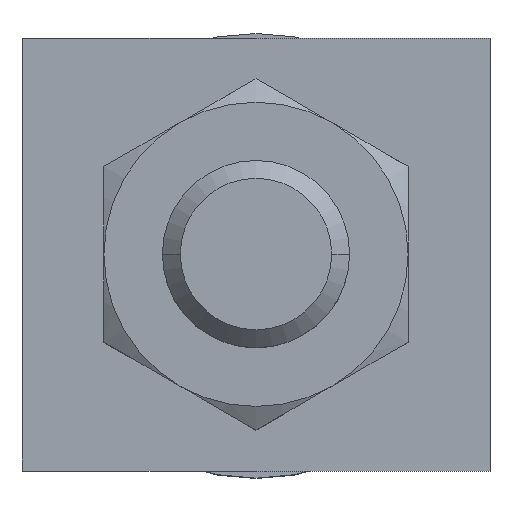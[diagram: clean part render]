
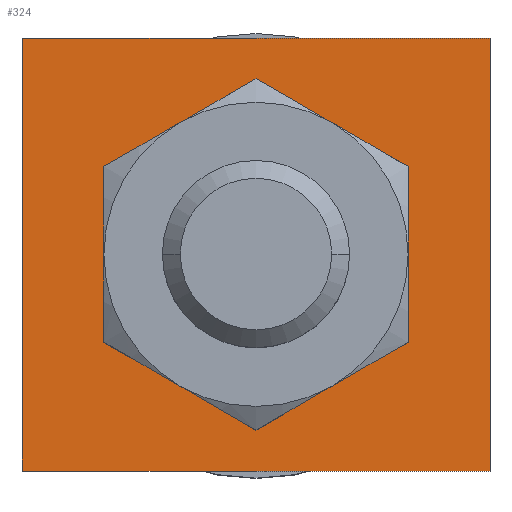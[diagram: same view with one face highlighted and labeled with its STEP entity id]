
A CAD part, top view. The second image highlights one B-rep face of the part: STEP entity #324.
In plain terms, the highlighted planar face has unit normal (0, 0, 1).
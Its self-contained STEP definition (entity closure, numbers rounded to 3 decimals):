
#324=ADVANCED_FACE('',(#600,#601),#602,.F.);
#600=FACE_BOUND('',#875,.T.);
#601=FACE_OUTER_BOUND('',#876,.T.);
#602=PLANE('',#877);
#875=EDGE_LOOP('',(#1373,#1374));
#876=EDGE_LOOP('',(#1375,#1376,#1377,#1378));
#877=AXIS2_PLACEMENT_3D('',#1379,#1380,#1381);
#1373=ORIENTED_EDGE('',*,*,#1800,.T.);
#1374=ORIENTED_EDGE('',*,*,#1802,.T.);
#1375=ORIENTED_EDGE('',*,*,#1830,.T.);
#1376=ORIENTED_EDGE('',*,*,#1831,.T.);
#1377=ORIENTED_EDGE('',*,*,#1832,.T.);
#1378=ORIENTED_EDGE('',*,*,#1820,.T.);
#1379=CARTESIAN_POINT('',(0.0,0.0,17.0));
#1380=DIRECTION('',(0.0,0.0,-1.0));
#1381=DIRECTION('',(0.0,1.0,0.0));
#1800=EDGE_CURVE('',#2107,#2111,#2113,.T.);
#1802=EDGE_CURVE('',#2111,#2107,#2115,.T.);
#1820=EDGE_CURVE('',#2143,#2141,#2144,.T.);
#1830=EDGE_CURVE('',#2141,#2157,#2158,.T.);
#1831=EDGE_CURVE('',#2157,#2159,#2160,.T.);
#1832=EDGE_CURVE('',#2159,#2143,#2161,.T.);
#2107=VERTEX_POINT('',#2762);
#2111=VERTEX_POINT('',#2767);
#2113=CIRCLE('',#2770,4.0);
#2115=CIRCLE('',#2772,4.0);
#2141=VERTEX_POINT('',#2809);
#2143=VERTEX_POINT('',#2812);
#2144=LINE('',#2813,#2814);
#2157=VERTEX_POINT('',#2833);
#2158=LINE('',#2834,#2835);
#2159=VERTEX_POINT('',#2836);
#2160=LINE('',#2837,#2838);
#2161=LINE('',#2839,#2840);
#2762=CARTESIAN_POINT('',(0.0,4.0,17.0));
#2767=CARTESIAN_POINT('',(0.,-4.0,17.0));
#2770=AXIS2_PLACEMENT_3D('',#3166,#3167,#3168);
#2772=AXIS2_PLACEMENT_3D('',#3169,#3170,#3171);
#2809=CARTESIAN_POINT('',(10.0,9.25,17.0));
#2812=CARTESIAN_POINT('',(10.0,-9.25,17.0));
#2813=CARTESIAN_POINT('',(10.0,0.0,17.0));
#2814=VECTOR('',#3187,1.0);
#2833=CARTESIAN_POINT('',(-10.0,9.25,17.0));
#2834=CARTESIAN_POINT('',(0.0,9.25,17.0));
#2835=VECTOR('',#3194,1.0);
#2836=CARTESIAN_POINT('',(-10.0,-9.25,17.0));
#2837=CARTESIAN_POINT('',(-10.0,0.0,17.0));
#2838=VECTOR('',#3195,1.0);
#2839=CARTESIAN_POINT('',(0.0,-9.25,17.0));
#2840=VECTOR('',#3196,1.0);
#3166=CARTESIAN_POINT('',(0.0,0.0,17.0));
#3167=DIRECTION('',(0.0,0.0,-1.0));
#3168=DIRECTION('',(0.0,1.0,0.0));
#3169=CARTESIAN_POINT('',(0.0,0.0,17.0));
#3170=DIRECTION('',(0.0,0.0,-1.0));
#3171=DIRECTION('',(0.0,1.0,0.0));
#3187=DIRECTION('',(0.0,1.0,0.0));
#3194=DIRECTION('',(-1.0,0.0,0.0));
#3195=DIRECTION('',(0.0,-1.0,0.0));
#3196=DIRECTION('',(1.0,0.0,0.0));
